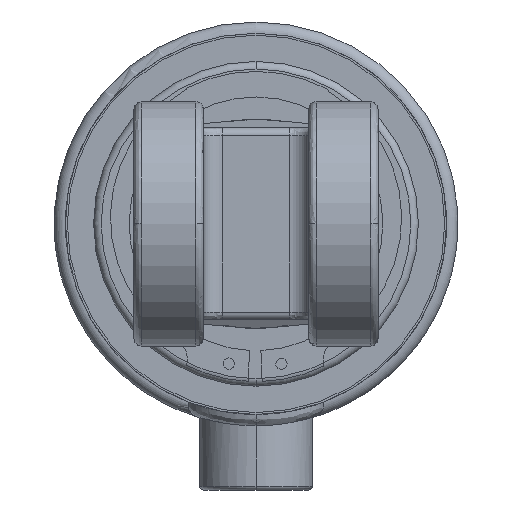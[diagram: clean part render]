
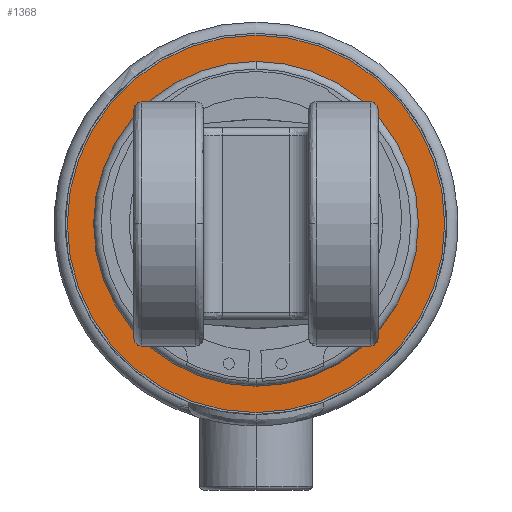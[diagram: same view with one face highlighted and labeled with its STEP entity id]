
A CAD part, left-side view. The second image highlights one B-rep face of the part: STEP entity #1368.
In plain terms, the highlighted planar face has unit normal (-1, 0, 0).
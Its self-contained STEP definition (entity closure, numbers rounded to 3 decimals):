
#41 = CARTESIAN_POINT ( 'NONE',  ( -367.005, 0., 0. ) ) ;
#314 = AXIS2_PLACEMENT_3D ( 'NONE', #2887, #9023, #3780 ) ;
#920 = DIRECTION ( 'NONE',  ( 0., 0., 1. ) ) ;
#972 = EDGE_CURVE ( 'NONE', #6599, #4710, #8307, .T. ) ;
#1091 = VERTEX_POINT ( 'NONE', #10945 ) ;
#1368 = ADVANCED_FACE ( 'NONE', ( #1690, #8434 ), #6150, .T. ) ;
#1653 = ORIENTED_EDGE ( 'NONE', *, *, #972, .F. ) ;
#1690 = FACE_OUTER_BOUND ( 'NONE', #3555, .T. ) ;
#1717 = CIRCLE ( 'NONE', #6200, 43.2 ) ;
#1879 = AXIS2_PLACEMENT_3D ( 'NONE', #6188, #6070, #4393 ) ;
#2534 = CIRCLE ( 'NONE', #10557, 50.2 ) ;
#2887 = CARTESIAN_POINT ( 'NONE',  ( -367.005, 0., 0. ) ) ;
#3555 = EDGE_LOOP ( 'NONE', ( #8784, #8791 ) ) ;
#3638 = CARTESIAN_POINT ( 'NONE',  ( -367.005, 0., 0. ) ) ;
#3780 = DIRECTION ( 'NONE',  ( 0., 0., 1. ) ) ;
#4393 = DIRECTION ( 'NONE',  ( 0., 0., 1. ) ) ;
#4517 = DIRECTION ( 'NONE',  ( 0., 0., 1. ) ) ;
#4555 = CARTESIAN_POINT ( 'NONE',  ( -367.005, 0., 50.2 ) ) ;
#4710 = VERTEX_POINT ( 'NONE', #10696 ) ;
#4929 = ORIENTED_EDGE ( 'NONE', *, *, #8761, .F. ) ;
#6070 = DIRECTION ( 'NONE',  ( -1., 0., 0. ) ) ;
#6150 = PLANE ( 'NONE',  #1879 ) ;
#6188 = CARTESIAN_POINT ( 'NONE',  ( -367.005, 0., -50.2 ) ) ;
#6198 = DIRECTION ( 'NONE',  ( -1., 0., 0. ) ) ;
#6200 = AXIS2_PLACEMENT_3D ( 'NONE', #3638, #9759, #4517 ) ;
#6599 = VERTEX_POINT ( 'NONE', #7954 ) ;
#6642 = CIRCLE ( 'NONE', #314, 50.2 ) ;
#7314 = DIRECTION ( 'NONE',  ( -1., 0., 0. ) ) ;
#7431 = CARTESIAN_POINT ( 'NONE',  ( -367.005, 0., 0. ) ) ;
#7954 = CARTESIAN_POINT ( 'NONE',  ( -367.005, 0., -43.2 ) ) ;
#8307 = CIRCLE ( 'NONE', #8789, 43.2 ) ;
#8434 = FACE_BOUND ( 'NONE', #10136, .T. ) ;
#8555 = DIRECTION ( 'NONE',  ( 0., 0., 1. ) ) ;
#8761 = EDGE_CURVE ( 'NONE', #4710, #6599, #1717, .T. ) ;
#8784 = ORIENTED_EDGE ( 'NONE', *, *, #10523, .T. ) ;
#8789 = AXIS2_PLACEMENT_3D ( 'NONE', #7431, #7314, #8555 ) ;
#8791 = ORIENTED_EDGE ( 'NONE', *, *, #10624, .T. ) ;
#9023 = DIRECTION ( 'NONE',  ( -1., 0., 0. ) ) ;
#9759 = DIRECTION ( 'NONE',  ( -1., 0., 0. ) ) ;
#10136 = EDGE_LOOP ( 'NONE', ( #4929, #1653 ) ) ;
#10139 = VERTEX_POINT ( 'NONE', #4555 ) ;
#10523 = EDGE_CURVE ( 'NONE', #10139, #1091, #2534, .T. ) ;
#10557 = AXIS2_PLACEMENT_3D ( 'NONE', #41, #6198, #920 ) ;
#10624 = EDGE_CURVE ( 'NONE', #1091, #10139, #6642, .T. ) ;
#10696 = CARTESIAN_POINT ( 'NONE',  ( -367.005, 0., 43.2 ) ) ;
#10945 = CARTESIAN_POINT ( 'NONE',  ( -367.005, 0., -50.2 ) ) ;
